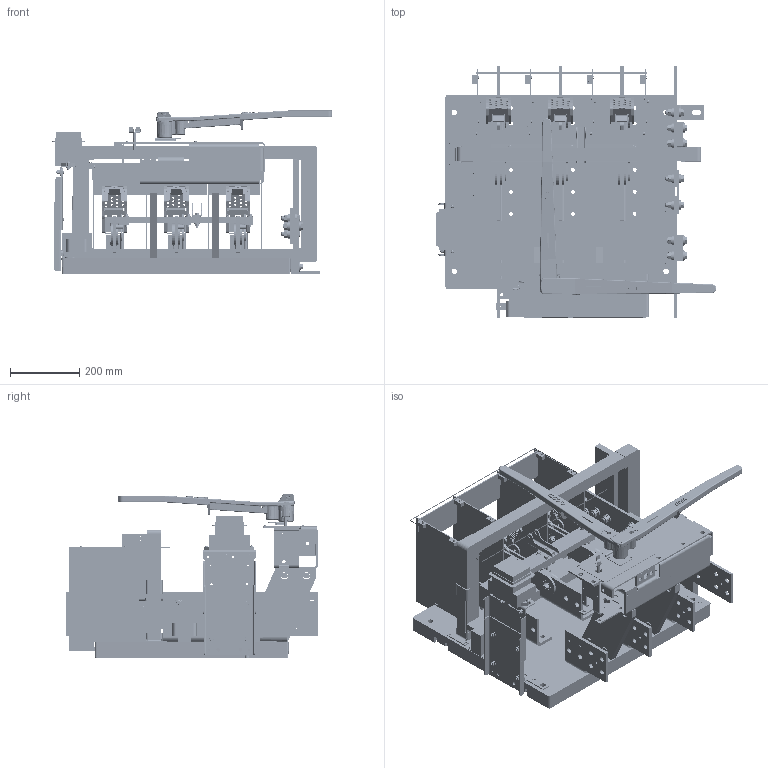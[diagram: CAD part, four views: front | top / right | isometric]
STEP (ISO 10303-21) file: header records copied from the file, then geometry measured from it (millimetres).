
FILE_DESCRIPTION(/* description */ (''),/* implementation_level */ '2;1');
FILE_NAME(/* name */ 'H:\switches\3d-templates\catalog-switches-iges-files\CATALOG-VL368G6.stp',/* time_stamp */ '2022-03-22T14:12:36-05:00',/* author */ ('MKingston'),/* organization */ (''),/* preprocessor_version */ 'ST-DEVELOPER v18.1',/* originating_system */ 'Autodesk Inventor 2022',/* authorisation */ '');
FILE_SCHEMA (('AUTOMOTIVE_DESIGN { 1 0 10303 214 3 1 1 }'));
Products named in the file (87): catalog-vl368; 277; 668-D; 668-E; 668-C; 223-d-transparent; catalog-368-blade-assy; 67-AL; 67-AR; 67-fc3; 67-gc3; 235-b; 230-a; catalog-arc-chute-assy; 50-QRX; 50-QLX; 56-QJT; 56-QJB; 56-QJS; 57-QJSB; 57-QJST; 363-da; 363-db; 246-a; 255-z; 255-bha; 178-c; 178-b; 255-c; gfi-ring-assembly; GFS10X24; 277-ma; gfr-1-mounting-assembly; 277-L1T; 277-l2; 277-l3; 277-l4; gfr-1; Bolted Connection; ANSI B18.6.3 - 10 - 32 x 7/8 SR HMS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
Assembly tree (261 placements, depth 4):
  catalog-vl368
    277
    668-D  x3
    668-E  x3
    668-C  x3
    223-d-transparent
    catalog-368-blade-assy  x3
      67-AL
      67-AR
      67-fc3
      67-gc3
    235-b
    230-a
    catalog-arc-chute-assy  x3
      50-QRX
      50-QLX
      56-QJT
      56-QJB
      56-QJS
      57-QJSB
      57-QJST
      363-da
      363-db
    246-a  x2
    178-b  x8
    255-z
    255-bha  x4
    178-c  x8
    255-c
    gfi-ring-assembly
      GFS10X24
      277-ma
    gfr-1-mounting-assembly
      277-L1T
      277-l2
      277-l3
      277-l4
      gfr-1
      Bolted Connection
        ANSI B18.22.1 - No. 10 - Type A  x4
        ASME B18.21.1 - No. 10. Carbon Steel, ETLWTB(1)  x4
        ANSI B18.6.3 - 10 - 32 x 7/8 SR HMS  x2
        ANSI B18.2.2 - 10 - 32, HMSNI  x2
      Bolted Connection_1
        ANSI B18.5 - 1/4-20 UNC - 0.75, RHBI  x6
        ASTM F436 - 1/4, CW  x6
        ASME B18.21.1 - 1/4. Carbon Steel, HITLWTB(1)  x6
        ANSI B18.2.2 - 1/4 - 20, HNI  x6
    transformer
    800-bck2
    800-fck-1
    221-kpa
    452
    481-a
    1200-VL-NEUTRAL
      675-a
      675-df  x2
      676-k  x2
      677-e
      678-r
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Bounding box: 807.14 x 725.27 x 469.37 mm (x, y, z)
Volume: 21025655.7 mm3; surface area: 4797028.1 mm2
Topology: 282 solids, 283 shells, 8688 faces, 21942 edges, 14176 vertices
Faces by surface type: plane 4493, cylinder 2556, cone 895, bspline 461, sphere 200, torus 83
Full cylindrical faces by diameter (mm): 1.702 x8, 3.175 x4, 3.302 x2, 3.581 x2, 3.683 x8, 3.759 x12, 3.962 x11, 4.089 x4, 4.166 x32, 4.305 x42, 4.366 x2, 4.496 x24, 4.653 x4, 4.762 x4, 4.775 x8, 4.801 x8, 4.826 x2, 4.902 x8, 4.915 x24, 4.953 x4, 4.978 x11, 5.462 x4, 5.537 x3, 5.556 x5, 5.563 x4, 5.791 x6, 6.35 x58, 6.528 x55, 6.604 x8, 7.137 x18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
Entity records: 131822 total; most frequent: CARTESIAN_POINT 32571, DIRECTION 19965, ORIENTED_EDGE 19606, EDGE_CURVE 9811, AXIS2_PLACEMENT_3D 7031, VERTEX_POINT 6347, LINE 5903, VECTOR 5903
